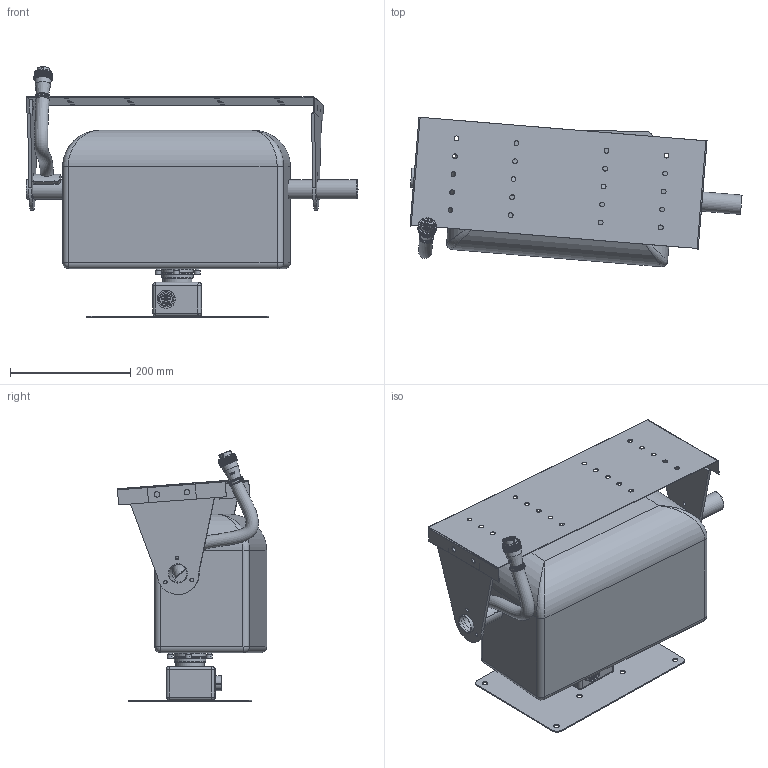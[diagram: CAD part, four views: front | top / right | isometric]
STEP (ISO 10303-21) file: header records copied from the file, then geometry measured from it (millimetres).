
FILE_DESCRIPTION(('STEP AP203'), '1');
FILE_NAME('Òðåêåð v2 (äëÿ çàêàç÷èêà)', '', ('UNSPECIFIED'), ('UNSPECIFIED'), 'C3D Converter', 'C3D Toolkit', '');
FILE_SCHEMA(('CONFIG_CONTROL_DESIGN'));
Length unit declared in the file: millimetre
Products named in the file (16): -02; WF24K4ZM1; WS24J19TQ
Assembly tree (25 placements, depth 3):
  -02
    (unnamed)  x4
    (unnamed)
      (unnamed)
      (unnamed)
      (unnamed)
      (unnamed)
      (unnamed)
    (unnamed)  x4
    (unnamed)  x4
    (unnamed)
    (unnamed)
    (unnamed)
    (unnamed)
    WF24K4ZM1
    (unnamed)
    WS24J19TQ
Bounding box: 551.24 x 247.78 x 416.23 mm (x, y, z)
Volume: 13439870.8 mm3; surface area: 830384.8 mm2
Topology: 10 solids, 12 shells, 3669 faces, 9824 edges, 6637 vertices
Faces by surface type: plane 2572, cylinder 927, bspline 82, cone 41, torus 29, sphere 12, extrusion 6
Full cylindrical faces by diameter (mm): 1.7 x9, 2 x9, 2.45 x1, 2.5 x5, 3.5 x8, 5 x4, 5.76 x1, 6 x10, 8 x20, 9 x16, 10 x5, 14 x1, 17.486 x1, 18.6 x1, 19.823 x1, 20 x1, 20.7 x1, 23.5 x1, 23.864 x1, 24 x1, 24.374 x1, 25 x3, 25.5 x1, 26 x1, 26.8 x1, 26.82 x1, 28.9 x1, 29.9 x1, 30 x2, 30.2 x1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
Entity records: 223970 total; most frequent: CARTESIAN_POINT 144991, ORIENTED_EDGE 19088, DIRECTION 10776, EDGE_CURVE 9544, B_SPLINE_CURVE_WITH_KNOTS 6925, VERTEX_POINT 6546, AXIS2_PLACEMENT_3D 4555, EDGE_LOOP 4390
